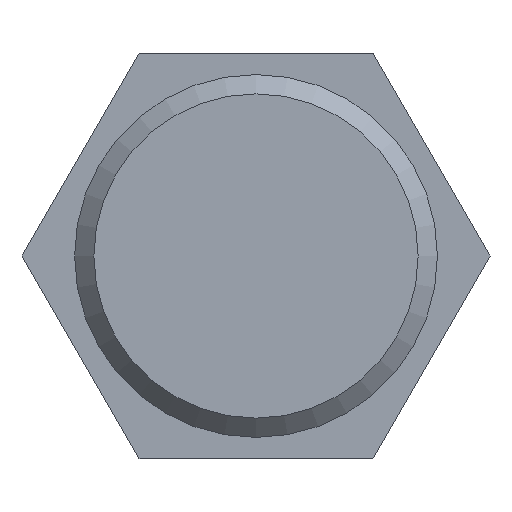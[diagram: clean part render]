
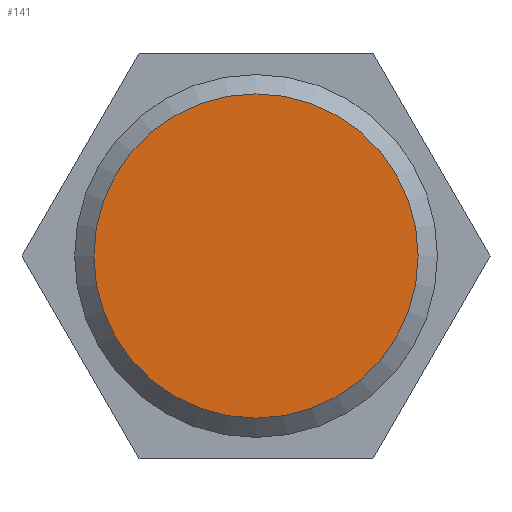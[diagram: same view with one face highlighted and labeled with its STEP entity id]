
A CAD part, left-side view. The second image highlights one B-rep face of the part: STEP entity #141.
In plain terms, the highlighted planar face has unit normal (-1, 0, 0).
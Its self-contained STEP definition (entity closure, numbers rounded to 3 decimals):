
#110=CARTESIAN_POINT('',(0.,8.4,0.));
#111=VERTEX_POINT('',#110);
#112=CARTESIAN_POINT('',(0.,0.0,0.0));
#113=DIRECTION('',(1.0,0.0,0.0));
#114=DIRECTION('',(0.0,-1.0,0.0));
#115=AXIS2_PLACEMENT_3D('',#112,#113,#114);
#116=CIRCLE('',#115,8.4);
#117=EDGE_CURVE('',#111,#111,#116,.T.);
#133=CARTESIAN_POINT('',(0.,4.7,0.0));
#134=DIRECTION('',(-1.0,0.0,0.0));
#135=DIRECTION('',(0.0,0.0,1.0));
#136=AXIS2_PLACEMENT_3D('',#133,#134,#135);
#137=PLANE('',#136);
#138=ORIENTED_EDGE('',*,*,#117,.F.);
#139=EDGE_LOOP('',(#138));
#140=FACE_OUTER_BOUND('',#139,.T.);
#141=ADVANCED_FACE('',(#140),#137,.T.);
